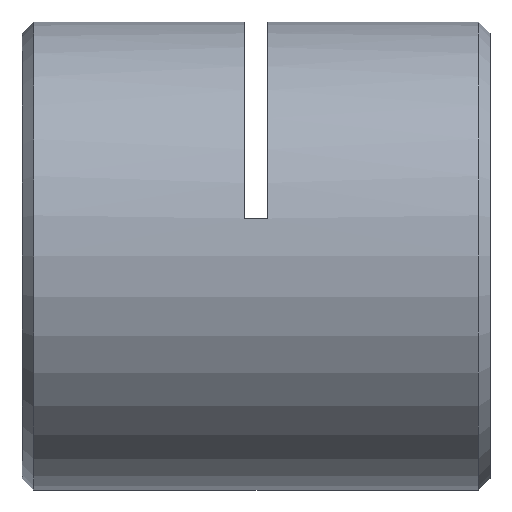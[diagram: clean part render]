
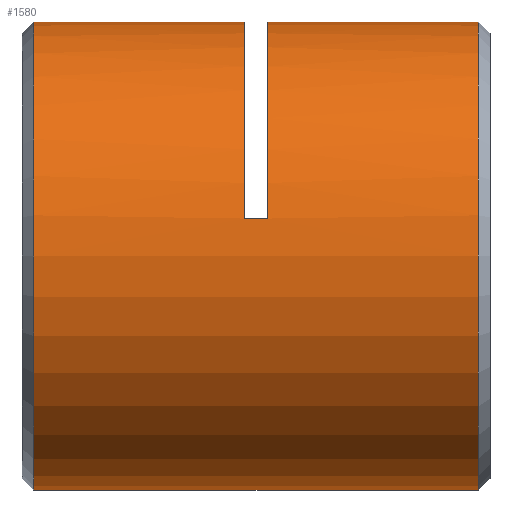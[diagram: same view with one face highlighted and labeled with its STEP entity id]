
A CAD part, left-side view. The second image highlights one B-rep face of the part: STEP entity #1580.
In plain terms, the highlighted cylindrical face has radius 8 mm (diameter 16 mm), a partial arc.
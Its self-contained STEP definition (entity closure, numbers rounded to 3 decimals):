
#82 = CYLINDRICAL_SURFACE ( 'NONE', #3316, 8. ) ;
#124 = DIRECTION ( 'NONE',  ( 0., 0., 1. ) ) ;
#180 = VERTEX_POINT ( 'NONE', #1542 ) ;
#232 = CARTESIAN_POINT ( 'NONE',  ( 0., 0.25, 0. ) ) ;
#355 = VERTEX_POINT ( 'NONE', #1432 ) ;
#374 = EDGE_CURVE ( 'NONE', #1928, #1399, #426, .T. ) ;
#387 = DIRECTION ( 'NONE',  ( 0., 1., 0. ) ) ;
#389 = ORIENTED_EDGE ( 'NONE', *, *, #3097, .F. ) ;
#409 = ORIENTED_EDGE ( 'NONE', *, *, #3826, .T. ) ;
#426 = CIRCLE ( 'NONE', #1013, 8. ) ;
#531 = CARTESIAN_POINT ( 'NONE',  ( 0., 0.65, 0. ) ) ;
#556 = VECTOR ( 'NONE', #387, 1000. ) ;
#607 = DIRECTION ( 'NONE',  ( 0., 1., 0. ) ) ;
#613 = DIRECTION ( 'NONE',  ( 0., -1., 0. ) ) ;
#689 = CARTESIAN_POINT ( 'NONE',  ( -7.897, 8.65, 1.28 ) ) ;
#748 = DIRECTION ( 'NONE',  ( 0., 1., 0. ) ) ;
#937 = AXIS2_PLACEMENT_3D ( 'NONE', #2332, #2947, #2677 ) ;
#1013 = AXIS2_PLACEMENT_3D ( 'NONE', #531, #2086, #3884 ) ;
#1107 = ORIENTED_EDGE ( 'NONE', *, *, #2853, .F. ) ;
#1130 = EDGE_CURVE ( 'NONE', #355, #2944, #1416, .T. ) ;
#1304 = VECTOR ( 'NONE', #1727, 1000. ) ;
#1324 = EDGE_CURVE ( 'NONE', #2944, #3330, #1514, .T. ) ;
#1392 = CARTESIAN_POINT ( 'NONE',  ( 0., 0.25, -8. ) ) ;
#1399 = VERTEX_POINT ( 'NONE', #1813 ) ;
#1416 = LINE ( 'NONE', #1640, #3500 ) ;
#1432 = CARTESIAN_POINT ( 'NONE',  ( 0., 8.65, 8. ) ) ;
#1435 = CARTESIAN_POINT ( 'NONE',  ( 0., 15.85, -8. ) ) ;
#1451 = CARTESIAN_POINT ( 'NONE',  ( 0., 15.85, 8. ) ) ;
#1501 = EDGE_CURVE ( 'NONE', #1399, #3357, #1991, .T. ) ;
#1514 = CIRCLE ( 'NONE', #3734, 8. ) ;
#1542 = CARTESIAN_POINT ( 'NONE',  ( -7.897, 7.85, 1.28 ) ) ;
#1580 = ADVANCED_FACE ( 'NONE', ( #1792 ), #82, .T. ) ;
#1640 = CARTESIAN_POINT ( 'NONE',  ( 0., 0.25, 8. ) ) ;
#1683 = ORIENTED_EDGE ( 'NONE', *, *, #374, .T. ) ;
#1685 = CARTESIAN_POINT ( 'NONE',  ( 0., 7.85, 8. ) ) ;
#1727 = DIRECTION ( 'NONE',  ( 0., 1., 0. ) ) ;
#1792 = FACE_OUTER_BOUND ( 'NONE', #3083, .T. ) ;
#1813 = CARTESIAN_POINT ( 'NONE',  ( 0., 0.65, 8. ) ) ;
#1815 = VERTEX_POINT ( 'NONE', #689 ) ;
#1928 = VERTEX_POINT ( 'NONE', #3070 ) ;
#1991 = LINE ( 'NONE', #3754, #556 ) ;
#2086 = DIRECTION ( 'NONE',  ( 0., 1., 0. ) ) ;
#2180 = CARTESIAN_POINT ( 'NONE',  ( 0., 15.85, 0. ) ) ;
#2201 = CARTESIAN_POINT ( 'NONE',  ( -7.897, 8.25, 1.28 ) ) ;
#2252 = CARTESIAN_POINT ( 'NONE',  ( 0., 7.85, 0. ) ) ;
#2332 = CARTESIAN_POINT ( 'NONE',  ( 0., 8.65, 0. ) ) ;
#2436 = LINE ( 'NONE', #2201, #3975 ) ;
#2564 = DIRECTION ( 'NONE',  ( 0., 1., 0. ) ) ;
#2677 = DIRECTION ( 'NONE',  ( 0., 0., 1. ) ) ;
#2679 = ORIENTED_EDGE ( 'NONE', *, *, #3242, .T. ) ;
#2710 = ORIENTED_EDGE ( 'NONE', *, *, #1324, .T. ) ;
#2733 = DIRECTION ( 'NONE',  ( 0., 0., 1. ) ) ;
#2785 = DIRECTION ( 'NONE',  ( 0., 0., -1. ) ) ;
#2840 = CIRCLE ( 'NONE', #937, 8. ) ;
#2853 = EDGE_CURVE ( 'NONE', #1928, #3330, #2885, .T. ) ;
#2885 = LINE ( 'NONE', #1392, #1304 ) ;
#2944 = VERTEX_POINT ( 'NONE', #1451 ) ;
#2947 = DIRECTION ( 'NONE',  ( 0., 1., 0. ) ) ;
#3024 = ORIENTED_EDGE ( 'NONE', *, *, #1130, .T. ) ;
#3040 = DIRECTION ( 'NONE',  ( 0., 1., 0. ) ) ;
#3068 = AXIS2_PLACEMENT_3D ( 'NONE', #2252, #748, #124 ) ;
#3070 = CARTESIAN_POINT ( 'NONE',  ( 0., 0.65, -8. ) ) ;
#3083 = EDGE_LOOP ( 'NONE', ( #1107, #1683, #3576, #389, #409, #2679, #3024, #2710 ) ) ;
#3097 = EDGE_CURVE ( 'NONE', #180, #3357, #3981, .T. ) ;
#3242 = EDGE_CURVE ( 'NONE', #1815, #355, #2840, .T. ) ;
#3316 = AXIS2_PLACEMENT_3D ( 'NONE', #232, #3040, #2733 ) ;
#3330 = VERTEX_POINT ( 'NONE', #1435 ) ;
#3357 = VERTEX_POINT ( 'NONE', #1685 ) ;
#3500 = VECTOR ( 'NONE', #2564, 1000. ) ;
#3576 = ORIENTED_EDGE ( 'NONE', *, *, #1501, .T. ) ;
#3734 = AXIS2_PLACEMENT_3D ( 'NONE', #2180, #613, #2785 ) ;
#3754 = CARTESIAN_POINT ( 'NONE',  ( 0., 0.25, 8. ) ) ;
#3826 = EDGE_CURVE ( 'NONE', #180, #1815, #2436, .T. ) ;
#3884 = DIRECTION ( 'NONE',  ( 0., 0., 1. ) ) ;
#3975 = VECTOR ( 'NONE', #607, 1000. ) ;
#3981 = CIRCLE ( 'NONE', #3068, 8. ) ;
